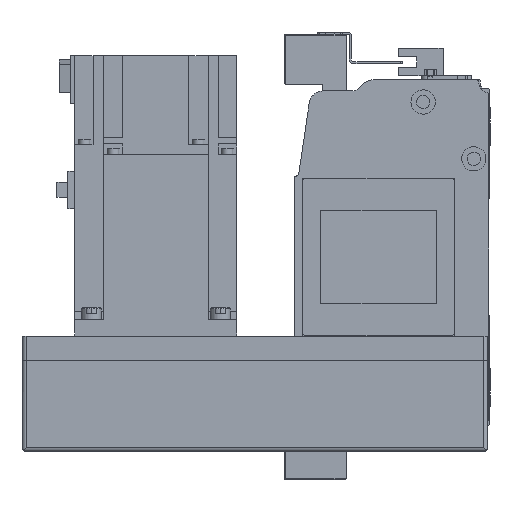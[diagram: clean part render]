
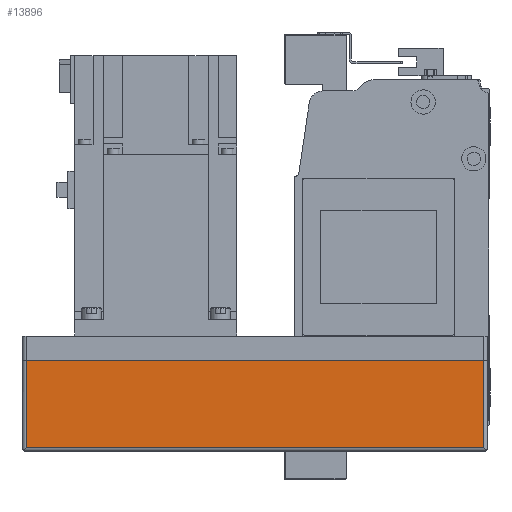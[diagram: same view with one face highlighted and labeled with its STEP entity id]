
A CAD part, left-side view. The second image highlights one B-rep face of the part: STEP entity #13896.
In plain terms, the highlighted planar face has unit normal (-1, 0, 0) as drawn and (0, -1, 0) by its records, which use the part's own axes.
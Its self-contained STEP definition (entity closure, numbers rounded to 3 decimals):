
#2391=ORIENTED_EDGE('',*,*,#5704,.F.);
#2392=ORIENTED_EDGE('',*,*,#5707,.T.);
#2393=ORIENTED_EDGE('',*,*,#5708,.T.);
#2394=ORIENTED_EDGE('',*,*,#5709,.F.);
#5704=EDGE_CURVE('',#7491,#7492,#8951,.T.);
#5707=EDGE_CURVE('',#7491,#7494,#8953,.T.);
#5708=EDGE_CURVE('',#7494,#7495,#8954,.T.);
#5709=EDGE_CURVE('',#7492,#7495,#8955,.T.);
#7491=VERTEX_POINT('',#21775);
#7492=VERTEX_POINT('',#21777);
#7494=VERTEX_POINT('',#21783);
#7495=VERTEX_POINT('',#21785);
#8951=LINE('',#21776,#10264);
#8953=LINE('',#21782,#10266);
#8954=LINE('',#21784,#10267);
#8955=LINE('',#21786,#10268);
#10264=VECTOR('',#17386,1000.);
#10266=VECTOR('',#17392,1000.);
#10267=VECTOR('',#17393,1000.);
#10268=VECTOR('',#17394,1000.);
#11388=EDGE_LOOP('',(#2391,#2392,#2393,#2394));
#12427=FACE_BOUND('',#11388,.T.);
#13316=PLANE('',#14910);
#13896=ADVANCED_FACE('',(#12427),#13316,.T.);
#14910=AXIS2_PLACEMENT_3D('',#21781,#17390,#17391);
#17386=DIRECTION('',(0.,0.,1.));
#17390=DIRECTION('',(0.,-1.,0.));
#17391=DIRECTION('',(0.,0.,-1.));
#17392=DIRECTION('',(1.,0.,0.));
#17393=DIRECTION('',(0.,0.,1.));
#17394=DIRECTION('',(1.,0.,0.));
#21775=CARTESIAN_POINT('',(-228.,-54.,-55.));
#21776=CARTESIAN_POINT('',(-228.,-54.,-57.));
#21777=CARTESIAN_POINT('',(-228.,-54.,-12.));
#21781=CARTESIAN_POINT('',(-228.,-54.,-57.));
#21782=CARTESIAN_POINT('',(-230.,-54.,-55.));
#21783=CARTESIAN_POINT('',(-2.,-54.,-55.));
#21784=CARTESIAN_POINT('',(-2.,-54.,-57.));
#21785=CARTESIAN_POINT('',(-2.,-54.,-12.));
#21786=CARTESIAN_POINT('',(-228.,-54.,-12.));
